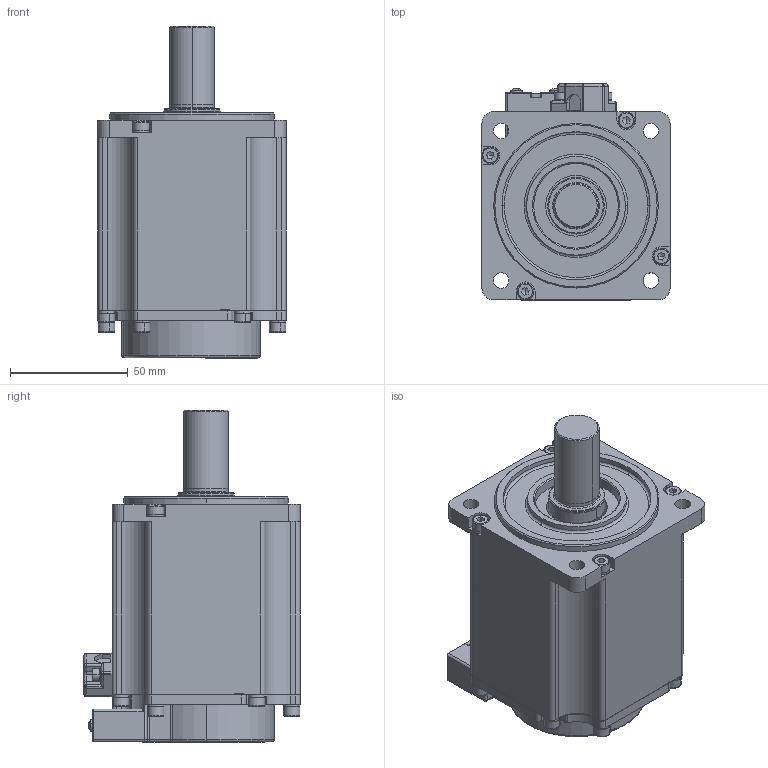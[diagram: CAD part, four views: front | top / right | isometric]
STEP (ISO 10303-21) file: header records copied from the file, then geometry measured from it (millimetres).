
FILE_DESCRIPTION (( 'STEP AP214' ), '1' );
FILE_NAME ('SME-L075.STEP', '2020-05-20T08:06:36', ( '' ), ( '' ), 'SwSTEP 2.0', 'SolidWorks 2016', '' );
FILE_SCHEMA (( 'AUTOMOTIVE_DESIGN' ));
Length unit declared in the file: millimetre
Products named in the file (8): _X2_87BA91D8_X0_ GB 6560-86 M2.5 x 10; M4-12_X2_542B588A7247_X0_; _X2_87BA7D72588A7247_X0_(M4_X2_7528_X0_); JIS B 1176 - M4 x 12; Encoder Cable Fix; 編碼器蓋; SME-L075(編輯); SME-L075
Assembly tree (15 placements, depth 3):
  SME-L075
    SME-L075(編輯)
    編碼器蓋
    Encoder Cable Fix
    M4-12_X2_542B588A7247_X0_  x8
      JIS B 1176 - M4 x 12
      _X2_87BA7D72588A7247_X0_(M4_X2_7528_X0_)
    _X2_87BA91D8_X0_ GB 6560-86 M2.5 x 10  x2
Bounding box: 80.03 x 92.02 x 141.2 mm (x, y, z)
Volume: 149311.2 mm3; surface area: 96508.6 mm2
Topology: 44 solids, 44 shells, 1031 faces, 2570 edges, 1612 vertices
Faces by surface type: plane 379, cylinder 368, cone 173, bspline 96, torus 10, sphere 5
Entity records: 31620 total; most frequent: CARTESIAN_POINT 6661, DIRECTION 4161, ORIENTED_EDGE 3912, EDGE_CURVE 1956, AXIS2_PLACEMENT_3D 1611, VERTEX_POINT 1255, LINE 939, VECTOR 939
